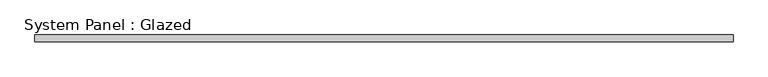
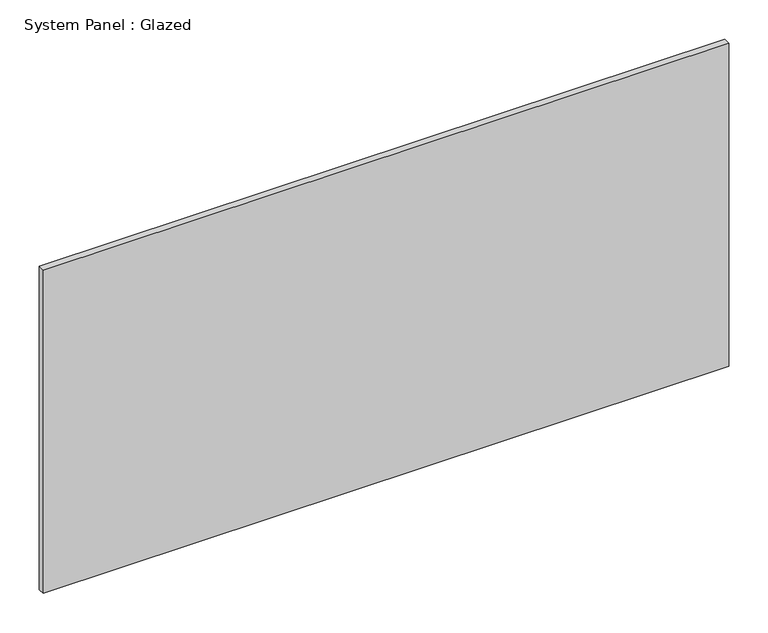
"""IFC4 building model written with IfcOpenShell, lengths in millimetres: plate geometry, System Panel : Glazed."""

from ifc_helpers import new_model, si_unit, origin, origin_with_axes, place, context, project, spatial, polyline, outline, extrude, source, transform, mapped, element, save


def system_panel_glazed_a5e376ae(model_context):
    return source(origin(), model_context, "Body", "SweptSolid", [
        extrude(outline(polyline([(504.8832342, -5.0), (-504.8832342, -5.0), (-504.8832342, 5.0), (504.8832342, 5.0), (504.8832342, -5.0)])), origin_with_axes(), (0.0, 0.0, 1.0), 503.3333333),
    ])


if __name__ == "__main__":
    model = new_model("IFC4")
    model_context = context("Model", 3, world=origin())
    ifc_project = project(units=[si_unit("LENGTHUNIT", "METRE", prefix="MILLI")], contexts=[model_context])
    site = spatial("IfcSite", under=ifc_project)
    building = spatial("IfcBuilding", under=site)
    placement = place(None, origin())
    system_panel_glazed_shape = system_panel_glazed_a5e376ae(model_context)
    element("IfcPlate", 1, ObjectType="System Panel : Glazed", at=placement, inside=building, context=model_context, shape_type="MappedRepresentation", body=[
        mapped(system_panel_glazed_shape, transform((0.0, 0.0, 0.0), x_axis=(1.0, 0.0, 0.0), y_axis=(0.0, 1.0, 0.0), z_axis=(0.0, 0.0, 1.0))),
    ])
    save(model, "model.ifc")
